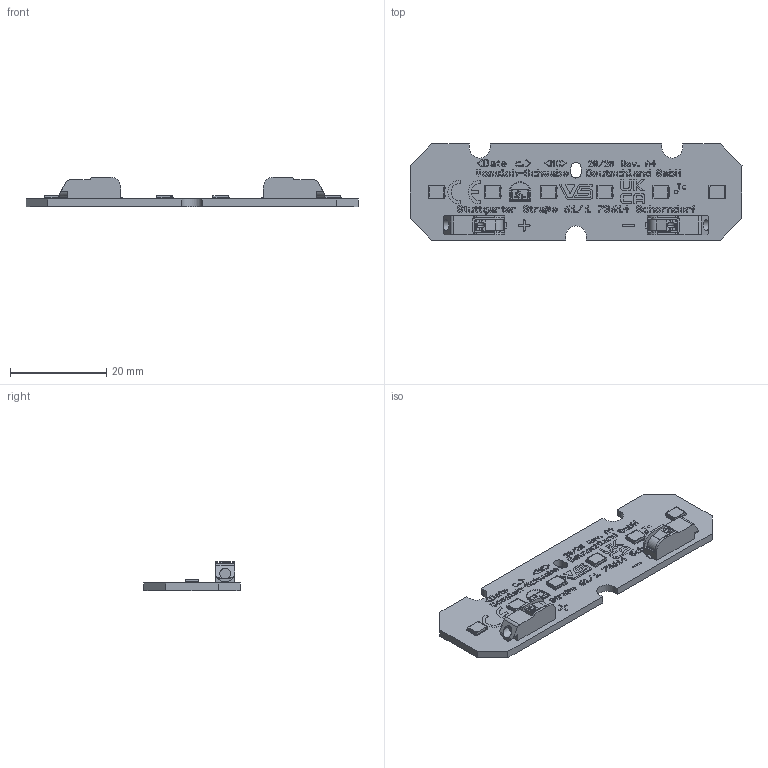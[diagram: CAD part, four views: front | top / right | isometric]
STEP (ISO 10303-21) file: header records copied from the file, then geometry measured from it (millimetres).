
FILE_DESCRIPTION(('Creo Elements/Direct Modeling STEP Export'),'2;1');
FILE_NAME('3D-Model_WU-M-666-TC.stp','2025-07-29T 9:03:17',(''),(''),'PTC Creo Elements/Direct Modeling STEP processor for AP214 (Solid Model)','PTC Creo Elements/Direct Modeling 19.0E 27-Jun-2016 (C) Parametric Technology GmbH','');
FILE_SCHEMA(('AUTOMOTIVE_DESIGN { 1 0 10303 214 1 1 1 1 }'));
Length unit declared in the file: millimetre
Products named in the file (124): p1; Print-Service.42; Print-Service.39; Print-Service.40; Print-Service.41; Print-Service.31; Print-Service.22; Print-Service.30; Print-Service.29; Print-Service.25; Print-Service.27; Print-Service.28; Print-Service.26; Print-Service.21; Print-Service.23; Print-Service.24; Print-Service.43; Print-Service.44; Print-Service.61; Print-Service.62; Print-Service.58; Print-Service.51; Print-Service.53; Print-Service.46; Print-Service.48; Print-Service.50; Print-Service.52; Print-Service.64; Print-Service.45; Print-Service.54; Print-Service.56; Print-Service.60; Print-Service.49; Print-Service.57; Print-Service.59; Print-Service.67; Print-Service.55; Print-Service.47; Print-Service.65; Print-Service.66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
Assembly tree (115 placements, depth 2):
  p1
  Print
    Print-Service.38
    Print-Service.37
    Print-Service.32
    Print-Service.34
    Print-Service.33
    Print-Service.36
    Print-Service.35
    Print-Service.73
    Print-Service.104
    Print-Service.88
    Print-Service.77
    Print-Service.68
    Print-Service.85
    Print-Service.75
    Print-Service.99
    Print-Service.86
    Print-Service.101
    Print-Service.79
    Print-Service.95
    Print-Service.78
    Print-Service.72
    Print-Service.92
    Print-Service.87
    Print-Service.98
    Print-Service.106
    Print-Service.93
    Print-Service.91
    Print-Service.76
    Print-Service.71
    Print-Service.69
    Print-Service.97
    Print-Service.94
    Print-Service.89
    Print-Service.80
    Print-Service.70
    Print-Service.84
    Print-Service.96
    Print-Service.103
    Print-Service.90
    Print-Service.74
    Print-Service.102
    Print-Service.81
    Print-Service.82
    Print-Service.105
    Print-Service.100
    Print-Service.83
    Print-Service.12
    Print-Service.10
    Print-Service.2
    Print-Service.13
    Print-Service.8
    Print-Service.9
    Print-Service.3
    Print-Service.7
    Print-Service.11
    Print-Service.4
    Print-Service.16
    Print-Service.15
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Bounding box: 69 x 20 x 6.1 mm (x, y, z)
Volume: 2413 mm3; surface area: 3930.8 mm2
Topology: 116 solids, 116 shells, 3077 faces, 8395 edges, 5570 vertices
Faces by surface type: plane 2317, cylinder 756, sphere 4
Entity records: 116429 total; most frequent: CARTESIAN_POINT 16336, ORIENTED_EDGE 15822, DIRECTION 15367, EDGE_CURVE 7911, VECTOR 6425, LINE 6425, VERTEX_POINT 5258, AXIS2_PLACEMENT_3D 4471
